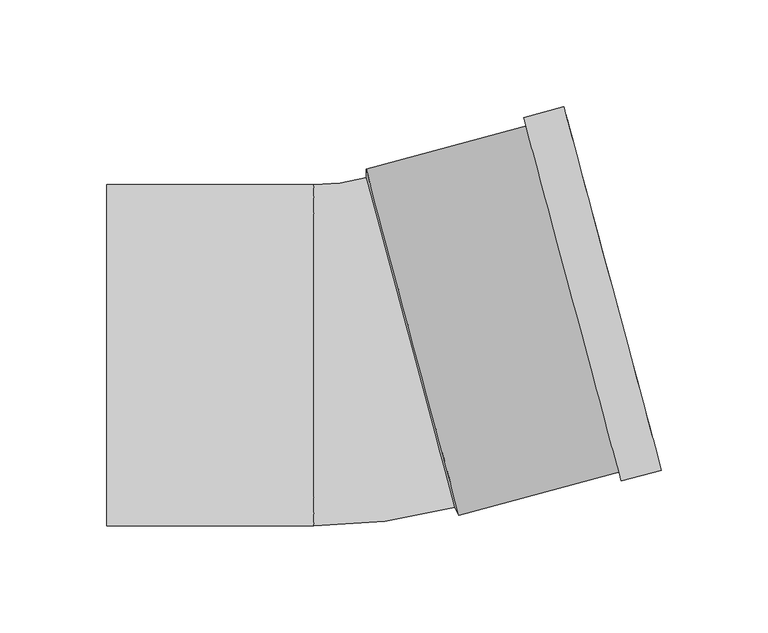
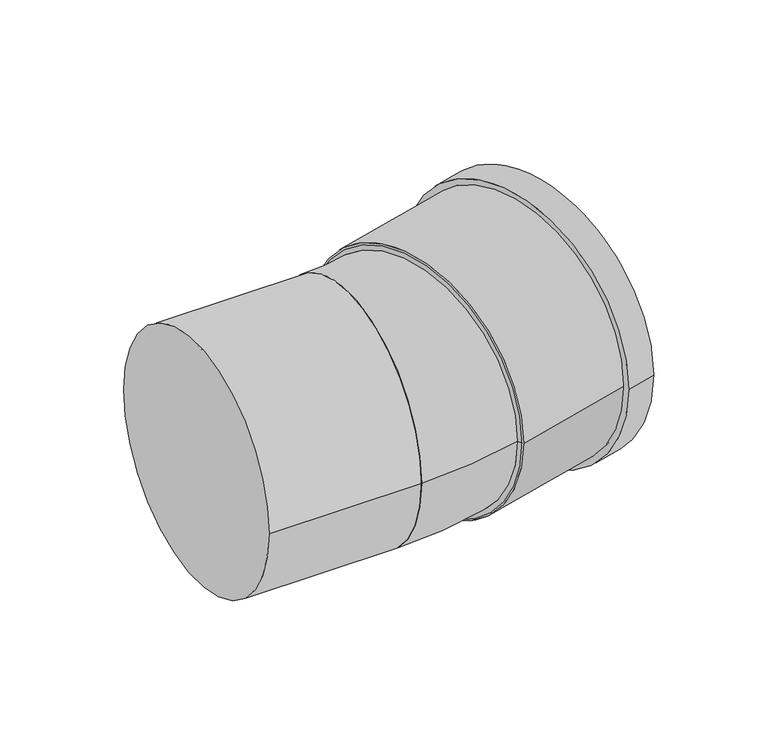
"""IFC4 building model written with IfcOpenShell, lengths in millimetres: pipe fitting geometry, Superdrain SKB Bend : Superdrain SKB Bend."""

from ifc_helpers import new_model, si_unit, point, frame, origin, origin_2d, place, context, project, spatial, polyline, circle_curve, ellipse_curve, trimmed, segment, composite_curve, outline, extrude, source, transform, mapped, element, save
from ifc_brep_helpers import plane_surface, revolved_surface, advanced_brep


def pipe_fitting_1532c8e4(model_context):
    return source(origin(), model_context, "Body", "SolidModel", [
        advanced_brep(
        [(42.9218176, -71.3212281, 0.0), (1.5107704, 83.2269041, 0.0), (-23.0, -80.0, 0.0), (-23.0, 80.0, 0.0)],
        [
            (0, 1, circle_curve(frame((22.216294, 5.952838, 0.0), z_axis=(0.965925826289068, 0.2588190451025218, 0.0), x_axis=(-0.2588190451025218, 0.965925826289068, 0.0)), 80.0)),
            (1, 0, circle_curve(frame((22.216294, 5.952838, 0.0), z_axis=(0.965925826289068, 0.2588190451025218, 0.0), x_axis=(-0.2588190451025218, 0.965925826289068, 0.0)), 80.0)),
            (2, 3, circle_curve(frame((-23.0, 0.0, 0.0), z_axis=(-1.0, 0.0, 0.0), x_axis=(0.0, 1.0, 0.0)), 80.0)),
            (3, 2, circle_curve(frame((-23.0, 0.0, 0.0), z_axis=(-1.0, 0.0, 0.0), x_axis=(0.0, 1.0, 0.0)), 80.0)),
            (3, 1, circle_curve(frame((-23.0, 174.7023446, 0.0), z_axis=(0.0, 0.0, 1.0), x_axis=(1.0, 0.0, 0.0)), 94.7023446)),
            (0, 2, circle_curve(frame((-23.0, 174.7023446, 0.0), z_axis=(0.0, 0.0, -1.0), x_axis=(1.0, 0.0, 0.0)), 254.7023446)),
        ],
        [
            plane_surface(frame((22.216294, 5.952838, 0.0), z_axis=(0.9659258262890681, 0.2588190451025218, 0.0), x_axis=(0.0, 0.0, -1.0))),
            plane_surface(frame((-23.0, 0.0, 0.0), z_axis=(-1.0, 0.0, 0.0), x_axis=(0.0, 0.0, -1.0))),
            revolved_surface(trimmed(ellipse_curve(frame((151.7023446, 174.7023446, 0.0), z_axis=(0.0, -1.0, 0.0), x_axis=(-1.0, 0.0, 0.0)), 80.0, 80.0), [point((71.7023446, 174.7023446, 0.0))], [point((231.7023446, 174.7023446, 0.0))], True, "CARTESIAN"), (-23.0, 174.7023446, 0.0), (0.0, 0.0, 1.0)),
            revolved_surface(trimmed(ellipse_curve(frame((151.7023446, 174.7023446, 0.0), z_axis=(0.0, -1.0, 0.0), x_axis=(-1.0, 0.0, 0.0)), 80.0, 80.0), [point((231.7023446, 174.7023446, 0.0))], [point((71.7023446, 174.7023446, 0.0))], True, "CARTESIAN"), (-23.0, 174.7023446, 0.0), (0.0, 0.0, 1.0)),
        ],
        [
            (0, [[1, 2]]),
            (1, [[3, 4]]),
            (2, [[-4, 5, -1, 6]]),
            (3, [[-3, -6, -2, -5]]),
        ],
    ),
        extrude(outline(composite_curve([segment(trimmed(circle_curve(origin_2d(), 84.0), [point((0.0, 84.0))], [point((0.0, -84.0))], False, "CARTESIAN"), True, "CONTINUOUS"), segment(trimmed(circle_curve(origin_2d(), 84.0), [point((0.0, -84.0))], [point((0.0, 84.0))], False, "CARTESIAN"), True, "CONTINUOUS")], self_intersect=False), holes=[composite_curve([segment(trimmed(circle_curve(origin_2d(), 80.0), [point((0.0, 80.0))], [point((0.0, -80.0))], True, "CARTESIAN"), True, "CONTINUOUS"), segment(trimmed(circle_curve(origin_2d(), 80.0), [point((0.0, -80.0))], [point((0.0, 80.0))], True, "CARTESIAN"), True, "CONTINUOUS")], self_intersect=False)]), frame((23.1822198, 6.2116571, 0.0), z_axis=(0.9659258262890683, 0.2588190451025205, 0.0), x_axis=(0.0, 0.0, 1.0)), (0.0, 0.0, 1.0), 97.0),
        extrude(outline(composite_curve([segment(trimmed(circle_curve(origin_2d(), 88.2), [point((0.0, -88.2))], [point((0.0, 88.2))], False, "CARTESIAN"), True, "CONTINUOUS"), segment(trimmed(circle_curve(origin_2d(), 88.2), [point((0.0, 88.2))], [point((0.0, -88.2))], False, "CARTESIAN"), True, "CONTINUOUS")], self_intersect=False), holes=[composite_curve([segment(trimmed(circle_curve(origin_2d(), 80.0), [point((0.0, -80.0))], [point((0.0, 80.0))], True, "CARTESIAN"), True, "CONTINUOUS"), segment(trimmed(circle_curve(origin_2d(), 80.0), [point((0.0, 80.0))], [point((0.0, -80.0))], True, "CARTESIAN"), True, "CONTINUOUS")], self_intersect=False)]), frame((98.138064, 26.296015, 0.0), z_axis=(0.9659258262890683, 0.2588190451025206, 0.0), x_axis=(0.0, 0.0, 1.0)), (0.0, 0.0, 1.0), 19.4),
        advanced_brep(
        [(44.9230196, -74.9261123, 0.0), (1.44142, 87.3494265, 0.0), (42.9218176, -71.3212281, 0.0), (1.5107704, 83.2269041, 0.0)],
        [
            (0, 1, circle_curve(frame((23.1822198, 6.2116571, 0.0), z_axis=(0.9659258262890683, 0.2588190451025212, 0.0), x_axis=(0.25881904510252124, -0.9659258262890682, 0.0)), 84.0)),
            (1, 0, circle_curve(frame((23.1822198, 6.2116571, 0.0), z_axis=(0.9659258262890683, 0.2588190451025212, 0.0), x_axis=(-0.2588190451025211, 0.9659258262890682, 0.0)), 84.0)),
            (2, 3, circle_curve(frame((22.216294, 5.952838, 0.0), z_axis=(-0.9659258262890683, -0.2588190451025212, 0.0), x_axis=(-0.2588190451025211, 0.9659258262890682, 0.0)), 80.0)),
            (3, 2, circle_curve(frame((22.216294, 5.952838, 0.0), z_axis=(-0.9659258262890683, -0.2588190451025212, 0.0), x_axis=(0.25881904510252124, -0.9659258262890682, 0.0)), 80.0)),
            (3, 1),
            (0, 2),
        ],
        [
            plane_surface(frame((23.1822198, 6.2116571, 0.0), z_axis=(0.9659258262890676, 0.25881904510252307, 0.0), x_axis=(0.0, 0.0, -1.0))),
            plane_surface(frame((22.216294, 5.952838, 0.0), z_axis=(-0.9659258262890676, -0.25881904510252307, 0.0), x_axis=(0.0, 0.0, -1.0))),
            revolved_surface(polyline([(1.5107703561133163, 83.22690420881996, 0.0), (1.4414199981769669, 87.34942660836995, 0.0)]), (2.8977775, 0.7764571, 0.0), (0.9659258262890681, 0.25881904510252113, 0.0)),
            revolved_surface(polyline([(42.92181757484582, -71.3212280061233, 0.0), (44.9230196, -74.9261123, 0.0)]), (2.8977775, 0.7764571, 0.0), (0.9659258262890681, 0.25881904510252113, 0.0)),
        ],
        [
            (0, [[1, 2]]),
            (1, [[3, 4]]),
            (2, [[-4, 5, -1, 6]]),
            (3, [[-3, -6, -2, -5]]),
        ],
    ),
        extrude(outline(composite_curve([segment(trimmed(circle_curve(origin_2d(), 80.0), [point((-80.0, 0.0))], [point((80.0, 0.0))], False, "CARTESIAN"), True, "CONTINUOUS"), segment(trimmed(circle_curve(origin_2d(), 80.0), [point((80.0, 0.0))], [point((-80.0, 0.0))], False, "CARTESIAN"), True, "CONTINUOUS")], self_intersect=False)), frame((-120.0, 0.0, 0.0), z_axis=(1.0, 0.0, 0.0), x_axis=(0.0, 1.0, 0.0)), (0.0, 0.0, 1.0), 97.0),
    ])


if __name__ == "__main__":
    model = new_model("IFC4")
    model_context = context("Model", 3, world=origin())
    ifc_project = project(units=[si_unit("LENGTHUNIT", "METRE", prefix="MILLI")], contexts=[model_context])
    site = spatial("IfcSite", under=ifc_project)
    building = spatial("IfcBuilding", under=site)
    placement = place(None, origin())
    pipe_fitting_shape = pipe_fitting_1532c8e4(model_context)
    element("IfcPipeFitting", 1, ObjectType="Superdrain SKB Bend : Superdrain SKB Bend", at=placement, inside=building, context=model_context, shape_type="MappedRepresentation", body=[
        mapped(pipe_fitting_shape, transform((0.0, 0.0, 0.0), x_axis=(1.0, 0.0, 0.0), y_axis=(0.0, 1.0, 0.0), z_axis=(0.0, 0.0, 1.0))),
    ])
    save(model, "model.ifc")
